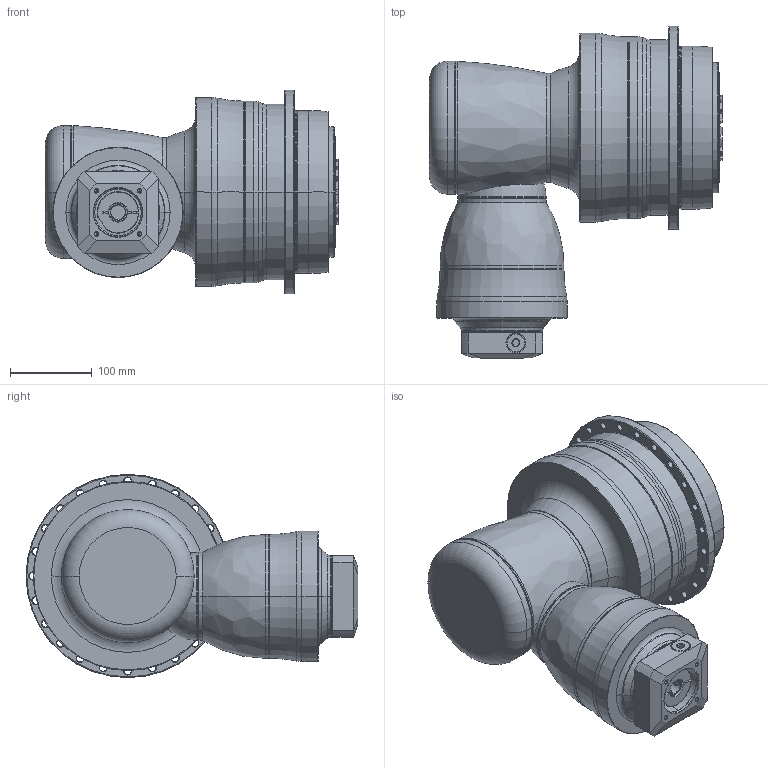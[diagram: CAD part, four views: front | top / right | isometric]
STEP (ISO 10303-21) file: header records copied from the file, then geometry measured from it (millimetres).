
FILE_DESCRIPTION((''),'2;1');
FILE_NAME('APCK200_4ST_19-P0409410201_ASM','2018-05-15T',('d01226'),(''),'PRO/ENGINEER BY PARAMETRIC TECHNOLOGY CORPORATION, 2008410','PRO/ENGINEER BY PARAMETRIC TECHNOLOGY CORPORATION, 2008410','');
FILE_SCHEMA(('CONFIG_CONTROL_DESIGN'));
Length unit declared in the file: millimetre
Products named in the file (13): P1008500002; P1832600001; P0278601003; P0359660103; P1211600001; P1315500001; P1007501001; P1317501001; P0409410201; P0503400008; P0912400001; 21711416017; APCK200_4ST_19-P0409410201_ASM
Assembly tree (12 placements, depth 2):
  APCK200_4ST_19-P0409410201_ASM
    P1008500002
    P1832600001
    P0278601003
    P0359660103
    P1211600001
    P1315500001
    P1007501001
    P1317501001
    P0409410201
    P0503400008
    P0912400001
    21711416017
Bounding box: 359.6 x 407.25 x 249.5 mm (x, y, z)
Volume: 12686019.3 mm3; surface area: 890150.9 mm2
Topology: 13 solids, 23 shells, 713 faces, 1665 edges, 1008 vertices
Faces by surface type: cone 222, cylinder 220, plane 128, torus 118, bspline 23, sphere 2
Entity records: 26026 total; most frequent: CARTESIAN_POINT 9170, DIRECTION 3806, ORIENTED_EDGE 3260, AXIS2_PLACEMENT_3D 1665, EDGE_CURVE 1651, VERTEX_POINT 1008, CIRCLE 940, EDGE_LOOP 821
